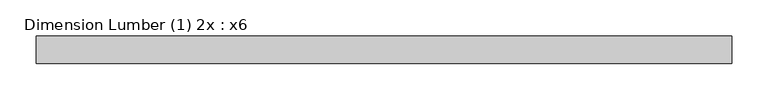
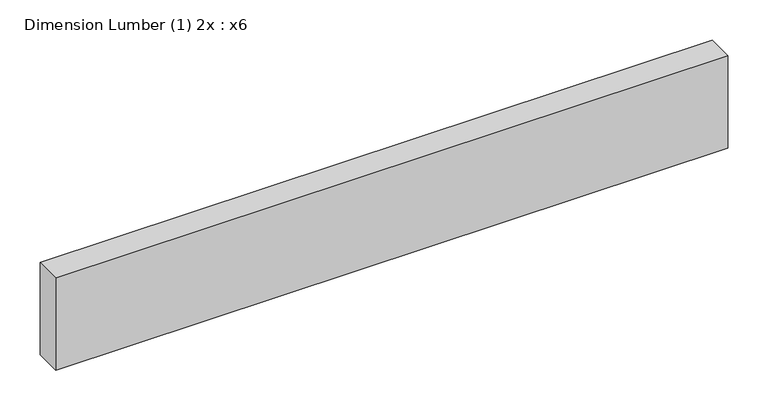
"""IFC4 building model written with IfcOpenShell, lengths in millimetres: beam geometry, Dimension Lumber (1) 2x : x6."""

from ifc_helpers import new_model, si_unit, frame, origin, place, context, project, spatial, polyline, outline, extrude, source, transform, mapped, element, save


def dimension_lumber_1_2x_x6_4de82955(model_context):
    return source(origin(), model_context, "Body", "SweptSolid", [
        extrude(outline(polyline([(451.3326, 19.05), (451.3326, -19.05), (-508.4826, -19.05), (-508.4826, 19.05), (451.3326, 19.05)])), frame((0.0, 0.0, -69.85), z_axis=(0.0, 0.0, 1.0), x_axis=(1.0, 0.0, 0.0)), (0.0, 0.0, 1.0), 139.7),
    ])


if __name__ == "__main__":
    model = new_model("IFC4")
    model_context = context("Model", 3, world=origin())
    ifc_project = project(units=[si_unit("LENGTHUNIT", "METRE", prefix="MILLI")], contexts=[model_context])
    site = spatial("IfcSite", under=ifc_project)
    building = spatial("IfcBuilding", under=site)
    placement = place(None, origin())
    dimension_lumber_1_2x_x6_shape = dimension_lumber_1_2x_x6_4de82955(model_context)
    element("IfcBeam", 1, ObjectType="Dimension Lumber (1) 2x : x6", at=placement, inside=building, context=model_context, shape_type="MappedRepresentation", body=[
        mapped(dimension_lumber_1_2x_x6_shape, transform((0.0, 0.0, 0.0), x_axis=(1.0, 0.0, 0.0), y_axis=(0.0, 1.0, 0.0), z_axis=(0.0, 0.0, 1.0))),
    ])
    save(model, "model.ifc")
